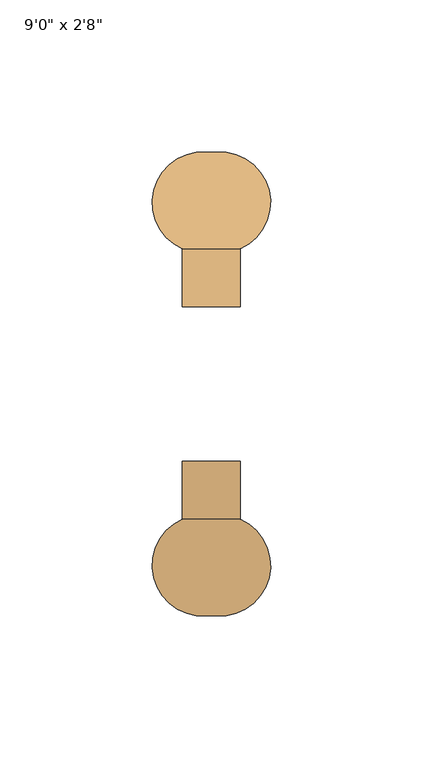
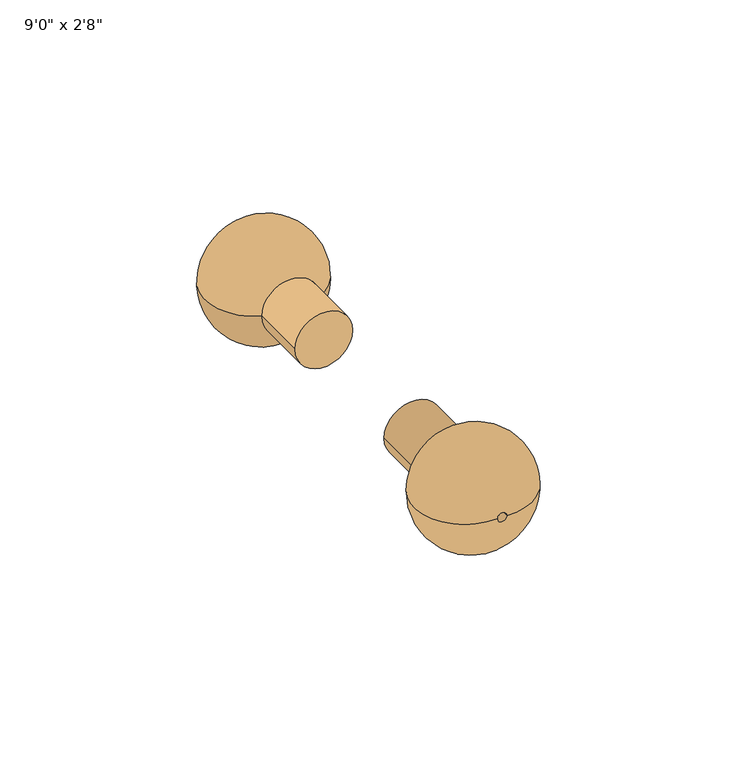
"""IFC4 building model written with IfcOpenShell, lengths in millimetres: door geometry."""

from ifc_helpers import new_model, si_unit, point, frame, frame_2d, origin, place, context, project, spatial, polyline, circle_curve, ellipse_curve, trimmed, segment, composite_curve, outline, extrude, source, transform, mapped, element, save
from ifc_brep_helpers import plane_surface, revolved_surface, advanced_brep


def door_11404014(model_context):
    return source(origin(), model_context, "Body", "SolidModel", [
        advanced_brep(
        [(-333.375, 88.9, 1016.0), (-352.425, 88.9, 1016.0), (-352.425, 69.85, 1016.0), (-333.375, 69.85, 1016.0), (-341.3125, 101.6, 1016.0), (-344.4875, 101.6, 1016.0), (-344.4875, 88.9, 1016.0), (-341.3125, 88.9, 1016.0)],
        [
            (0, 1, circle_curve(frame((-342.9, 88.9, 1016.0), z_axis=(0.0, 1.0, 0.0), x_axis=(-1.0, 0.0, 0.0)), 9.525)),
            (1, 2),
            (2, 3, circle_curve(frame((-342.9, 69.85, 1016.0), z_axis=(0.0, -1.0, 0.0), x_axis=(-1.0, 0.0, 0.0)), 9.525)),
            (3, 0),
            (4, 5, circle_curve(frame((-342.9, 101.6, 1016.0), z_axis=(0.0, 1.0, 0.0), x_axis=(-1.0, 0.0, 0.0)), 1.5875)),
            (5, 6),
            (6, 7, circle_curve(frame((-342.9, 88.9, 1016.0), z_axis=(0.0, -1.0, 0.0), x_axis=(-1.0, 0.0, 0.0)), 1.5875)),
            (7, 4),
            (2, 5, circle_curve(frame((-345.7791378, 85.055722, 1016.0), z_axis=(0.0, 0.0, -1.0), x_axis=(-1.0, 0.0, 0.0)), 16.5946215)),
            (4, 3, circle_curve(frame((-340.0208622, 85.055722, 1016.0), z_axis=(0.0, 0.0, -1.0), x_axis=(1.0, 0.0, 0.0)), 16.5946215)),
            (1, 0, circle_curve(frame((-342.9, 88.9, 1016.0), z_axis=(0.0, 1.0, 0.0), x_axis=(1.0, 0.0, 0.0)), 9.525)),
            (3, 2, circle_curve(frame((-342.9, 69.85, 1016.0), z_axis=(0.0, -1.0, 0.0), x_axis=(1.0, 0.0, 0.0)), 9.525)),
            (6, 7, circle_curve(frame((-342.9, 88.9, 1016.0), z_axis=(0.0, 1.0, 0.0), x_axis=(1.0, 0.0, 0.0)), 1.5875)),
            (5, 4, circle_curve(frame((-342.9, 101.6, 1016.0), z_axis=(0.0, 1.0, 0.0), x_axis=(1.0, 0.0, 0.0)), 1.5875)),
        ],
        [
            revolved_surface(polyline([(-352.42499999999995, 69.85, 1016.0), (-352.42499999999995, 88.9, 1016.0)]), (-342.9, 88.9, 1016.0), (0.0, -1.0, 0.0)),
            revolved_surface(polyline([(-344.48749999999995, 88.9, 1016.0), (-344.48749999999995, 101.6, 1016.0)]), (-342.9, 88.9, 1016.0), (0.0, -1.0, 0.0)),
            revolved_surface(trimmed(ellipse_curve(frame((-345.7791378, 85.055722, 1016.0), z_axis=(0.0, 0.0, 1.0), x_axis=(-1.0, 0.0, 0.0)), 16.5946215, 16.5946215), [point((-344.4875, 101.6, 1016.0))], [point((-352.425, 69.85, 1016.0))], True, "CARTESIAN"), (-342.9, 88.9, 1016.0), (0.0, -1.0, 0.0)),
            revolved_surface(polyline([(-333.375, 69.85, 1016.0), (-333.375, 88.9, 1016.0)]), (-342.9, 88.9, 1016.0), (0.0, -1.0, 0.0)),
            plane_surface(frame((-342.9, 88.9, 1016.0), z_axis=(0.0, -1.0, 0.0), x_axis=(1.0, 0.0, 0.0))),
            revolved_surface(polyline([(-341.3125, 88.9, 1016.0), (-341.3125, 101.6, 1016.0)]), (-342.9, 88.9, 1016.0), (0.0, -1.0, 0.0)),
            revolved_surface(trimmed(ellipse_curve(frame((-340.0208622, 85.055722, 1016.0), z_axis=(0.0, 0.0, -1.0), x_axis=(1.0, 0.0, 0.0)), 16.5946215, 16.5946215), [point((-341.3125, 101.6, 1016.0))], [point((-333.375, 69.85, 1016.0))], True, "CARTESIAN"), (-342.9, 88.9, 1016.0), (0.0, -1.0, 0.0)),
        ],
        [
            (0, [[1, 2, 3, 4]]),
            (1, [[5, 6, 7, 8]]),
            (2, [[-3, 9, -5, 10]]),
            (3, [[11, -4, 12, -2]]),
            (4, [[-11, -1], [13, -7]]),
            (5, [[14, -8, -13, -6]]),
            (6, [[-12, -10, -14, -9]]),
        ],
    ),
        extrude(outline(composite_curve([segment(trimmed(circle_curve(frame_2d((1016.0, -342.9)), 9.525), [point((1016.0, -333.375))], [point((1016.0, -352.425))], False, "CARTESIAN"), True, "CONTINUOUS"), segment(trimmed(circle_curve(frame_2d((1016.0, -342.9)), 9.525), [point((1016.0, -352.425))], [point((1016.0, -333.375))], False, "CARTESIAN"), True, "CONTINUOUS")], self_intersect=False)), frame((0.0, 50.8, 0.0), z_axis=(0.0, 1.0, 0.0), x_axis=(0.0, 0.0, 1.0)), (0.0, 0.0, 1.0), 38.1),
        advanced_brep(
        [(-352.425, -38.1, 1016.0), (-333.375, -38.1, 1016.0), (-333.375, -19.05, 1016.0), (-352.425, -19.05, 1016.0), (-344.4875, -50.8, 1016.0), (-341.3125, -50.8, 1016.0), (-341.3125, -38.1, 1016.0), (-344.4875, -38.1, 1016.0)],
        [
            (0, 1, circle_curve(frame((-342.9, -38.1, 1016.0), z_axis=(0.0, -1.0, 0.0), x_axis=(1.0, 0.0, 0.0)), 9.525)),
            (1, 2),
            (2, 3, circle_curve(frame((-342.9, -19.05, 1016.0), z_axis=(0.0, 1.0, 0.0), x_axis=(1.0, 0.0, 0.0)), 9.525)),
            (3, 0),
            (4, 5, circle_curve(frame((-342.9, -50.8, 1016.0), z_axis=(0.0, -1.0, 0.0), x_axis=(1.0, 0.0, 0.0)), 1.5875)),
            (5, 6),
            (6, 7, circle_curve(frame((-342.9, -38.1, 1016.0), z_axis=(0.0, 1.0, 0.0), x_axis=(1.0, 0.0, 0.0)), 1.5875)),
            (7, 4),
            (2, 5, circle_curve(frame((-340.0208622, -34.255722, 1016.0), z_axis=(0.0, 0.0, -1.0), x_axis=(1.0, 0.0, 0.0)), 16.5946215)),
            (4, 3, circle_curve(frame((-345.7791378, -34.255722, 1016.0), z_axis=(0.0, 0.0, -1.0), x_axis=(-1.0, 0.0, 0.0)), 16.5946215)),
            (1, 0, circle_curve(frame((-342.9, -38.1, 1016.0), z_axis=(0.0, -1.0, 0.0), x_axis=(-1.0, 0.0, 0.0)), 9.525)),
            (3, 2, circle_curve(frame((-342.9, -19.05, 1016.0), z_axis=(0.0, 1.0, 0.0), x_axis=(-1.0, 0.0, 0.0)), 9.525)),
            (6, 7, circle_curve(frame((-342.9, -38.1, 1016.0), z_axis=(0.0, -1.0, 0.0), x_axis=(-1.0, 0.0, 0.0)), 1.5875)),
            (5, 4, circle_curve(frame((-342.9, -50.8, 1016.0), z_axis=(0.0, -1.0, 0.0), x_axis=(-1.0, 0.0, 0.0)), 1.5875)),
        ],
        [
            revolved_surface(polyline([(-333.375, -19.05, 1016.0), (-333.375, -38.1, 1016.0)]), (-342.9, -38.1, 1016.0), (0.0, 1.0, 0.0)),
            revolved_surface(polyline([(-341.3125, -38.1, 1016.0), (-341.3125, -50.8, 1016.0)]), (-342.9, -38.1, 1016.0), (0.0, 1.0, 0.0)),
            revolved_surface(trimmed(ellipse_curve(frame((-340.0208622, -34.255722, 1016.0), z_axis=(0.0, 0.0, 1.0), x_axis=(1.0, 0.0, 0.0)), 16.5946215, 16.5946215), [point((-341.3125, -50.8, 1016.0))], [point((-333.375, -19.05, 1016.0))], True, "CARTESIAN"), (-342.9, -38.1, 1016.0), (0.0, 1.0, 0.0)),
            revolved_surface(polyline([(-352.42499999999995, -19.05, 1016.0), (-352.42499999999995, -38.1, 1016.0)]), (-342.9, -38.1, 1016.0), (0.0, 1.0, 0.0)),
            plane_surface(frame((-342.9, -38.1, 1016.0), z_axis=(0.0, 1.0, 0.0), x_axis=(-1.0, 0.0, 0.0))),
            revolved_surface(polyline([(-344.48749999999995, -38.1, 1016.0), (-344.48749999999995, -50.8, 1016.0)]), (-342.9, -38.1, 1016.0), (0.0, 1.0, 0.0)),
            revolved_surface(trimmed(ellipse_curve(frame((-345.7791378, -34.255722, 1016.0), z_axis=(0.0, 0.0, -1.0), x_axis=(-1.0, 0.0, 0.0)), 16.5946215, 16.5946215), [point((-344.4875, -50.8, 1016.0))], [point((-352.425, -19.05, 1016.0))], True, "CARTESIAN"), (-342.9, -38.1, 1016.0), (0.0, 1.0, 0.0)),
        ],
        [
            (0, [[1, 2, 3, 4]]),
            (1, [[5, 6, 7, 8]]),
            (2, [[-3, 9, -5, 10]]),
            (3, [[11, -4, 12, -2]]),
            (4, [[-11, -1], [13, -7]]),
            (5, [[14, -8, -13, -6]]),
            (6, [[-12, -10, -14, -9]]),
        ],
    ),
        extrude(outline(composite_curve([segment(trimmed(circle_curve(frame_2d((1016.0, -342.9)), 9.525), [point((1016.0, -333.375))], [point((1016.0, -352.425))], False, "CARTESIAN"), True, "CONTINUOUS"), segment(trimmed(circle_curve(frame_2d((1016.0, -342.9)), 9.525), [point((1016.0, -352.425))], [point((1016.0, -333.375))], False, "CARTESIAN"), True, "CONTINUOUS")], self_intersect=False)), frame((0.0, -38.1, 0.0), z_axis=(0.0, 1.0, 0.0), x_axis=(0.0, 0.0, 1.0)), (0.0, 0.0, 1.0), 38.1),
    ])


if __name__ == "__main__":
    model = new_model("IFC4")
    model_context = context("Model", 3, world=origin())
    ifc_project = project(units=[si_unit("LENGTHUNIT", "METRE", prefix="MILLI")], contexts=[model_context])
    site = spatial("IfcSite", under=ifc_project)
    building = spatial("IfcBuilding", under=site)
    placement = place(None, origin())
    door_shape = door_11404014(model_context)
    element("IfcDoor", 1, ObjectType="Planitar - Single Door_Swapper : 9'0\" x 2'8\"", at=placement, inside=building, context=model_context, shape_type="MappedRepresentation", body=[
        mapped(door_shape, transform((0.0, 0.0, 0.0), x_axis=(1.0, 0.0, 0.0), y_axis=(0.0, 1.0, 0.0), z_axis=(0.0, 0.0, 1.0))),
    ])
    save(model, "model.ifc")
